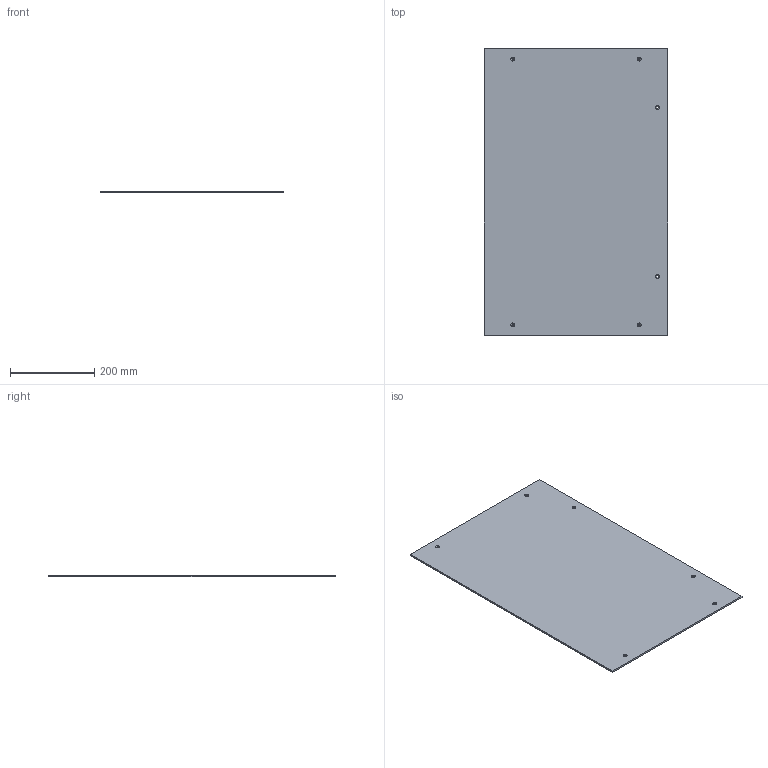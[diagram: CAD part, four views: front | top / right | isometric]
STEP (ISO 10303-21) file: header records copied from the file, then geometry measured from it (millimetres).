
FILE_DESCRIPTION (( 'STEP AP203' ), '1' );
FILE_NAME ('Planche_Déflecteur_Gauche.STEP', '2026-06-24T07:29:50', ( '' ), ( '' ), 'SwSTEP 2.0', 'SolidWorks 2024', '' );
FILE_SCHEMA (( 'CONFIG_CONTROL_DESIGN' ));
Length unit declared in the file: millimetre
Products named in the file (1): Planche_Déflecteur_Gauche
Bounding box: 435 x 678 x 4 mm (x, y, z)
Volume: 1179010 mm3; surface area: 598826.2 mm2
Topology: 1 solids, 1 shells, 18 faces, 48 edges, 32 vertices
Faces by surface type: plane 6, cylinder 6, cone 6
Full cylindrical faces by diameter (mm): 5 x6
Entity records: 555 total; most frequent: DIRECTION 86, CARTESIAN_POINT 75, ORIENTED_EDGE 60, EDGE_LOOP 42, AXIS2_PLACEMENT_3D 37, EDGE_CURVE 30, VERTEX_POINT 26, FACE_OUTER_BOUND 24
